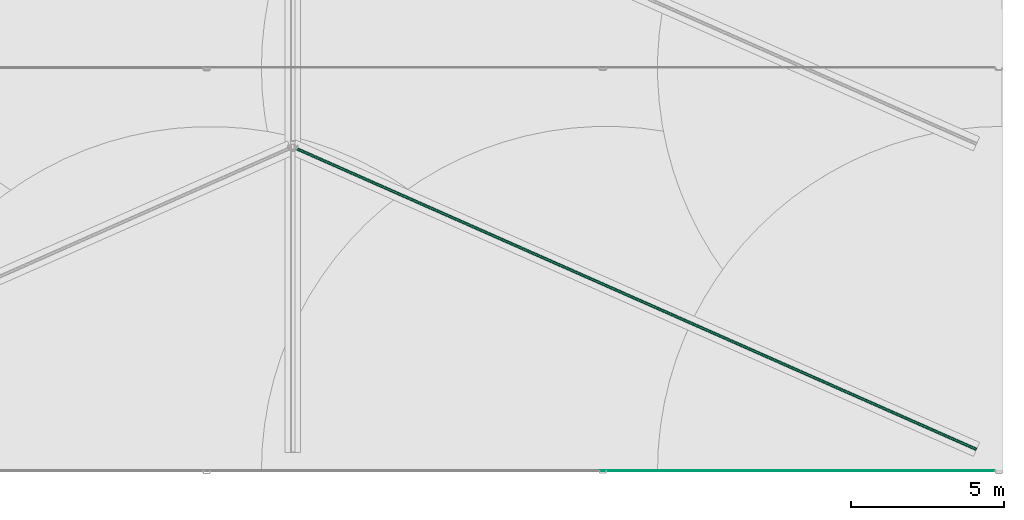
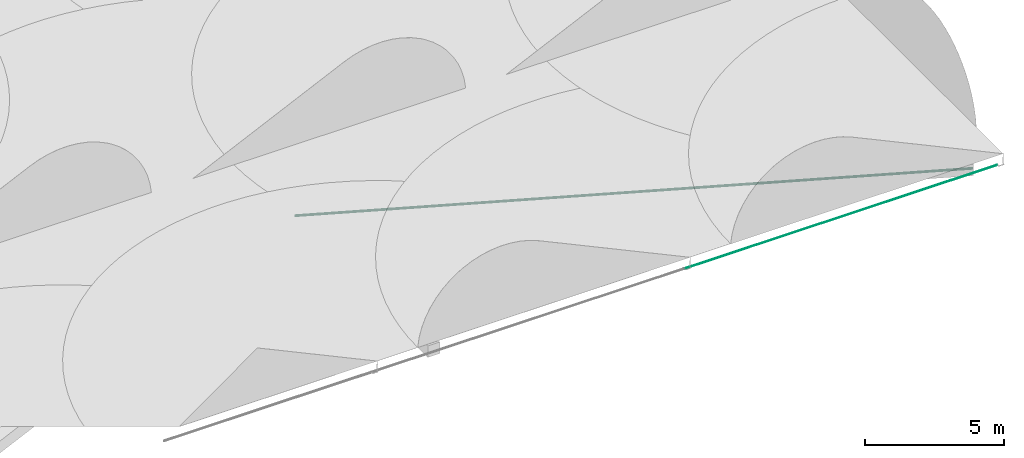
# One storey, part 31 of 166: 2 flow segments.
"""IFC2X3 building model written with IfcOpenShell, lengths in metres."""

from ifc_helpers import new_model, entity, si_unit, converted_unit, direction, frame, frame_2d, origin, origin_2d_with_axis, place, context, subcontext, project, spatial, circle, extrude, type_object, element, save


model = new_model("IFC2X3")

# Units and contexts
model_context = context("Model", 3, precision=1e-05, world=origin(), true_north=direction((6.123233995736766e-17, 1.0)))
body_context = subcontext(model_context, "Body", "Model", "MODEL_VIEW")
ifc_project = project(units=[si_unit("LENGTHUNIT", "METRE"), converted_unit("PLANEANGLEUNIT", "DEGREE", entity("IfcPlaneAngleMeasure", 0.017453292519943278), si_unit("PLANEANGLEUNIT", "RADIAN"), dimensions=[0, 0, 0, 0, 0, 0, 0]), si_unit("AREAUNIT", "SQUARE_METRE")], contexts=[model_context])

# Site, building, storey
site_placement = place(None, origin())
site = spatial("IfcSite", under=ifc_project, at=site_placement, Name="Default", CompositionType="ELEMENT")
building_placement = place(site_placement, origin())
building = spatial("IfcBuilding", under=site, at=building_placement, Name="CASA DE ACOLHIDA PARA IDOSOS", CompositionType="ELEMENT")
storey_placement = place(building_placement, frame((0.0, 0.0, -1.7499999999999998)))
storey = spatial("IfcBuildingStorey", under=building, at=storey_placement, Name="IMPLANTAÇÃO DRENAGEM", CompositionType="ELEMENT", Elevation=-1.7499999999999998)

# Flow segments
pipe_segment_type_1 = type_object("IfcPipeSegmentType", Name="Tipos de tubos:PLUV_Tubo PEAD Corrugado", PredefinedType="NOTDEFINED")
flow_segment_1_placement = place(storey_placement, origin())
element("IfcFlowSegment", 1, at=flow_segment_1_placement, inside=storey, type_object=pipe_segment_type_1, Name="Tipos de tubos:PLUV_Tubo PEAD Corrugado", ObjectType="Tipos de tubos:PLUV_Tubo PEAD Corrugado", context=body_context, shape_type="SweptSolid", body=[
    extrude(circle(Radius=0.05, at=origin_2d_with_axis()), frame((45.35555726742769, -16.046942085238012, -0.55), z_axis=(-0.9144899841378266, 0.4044849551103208, -0.009999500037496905), x_axis=(0.4045051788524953, 0.914535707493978, 0.0)), (0.0, 0.0, 1.0), 24.480228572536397),
])
pipe_segment_type_2 = type_object("IfcPipeSegmentType", Name="Tipos de tubos:AF_Tubo Marrom Soldável", PredefinedType="NOTDEFINED")
flow_segment_2_placement = place(storey_placement, origin())
element("IfcFlowSegment", 2, at=flow_segment_2_placement, inside=storey, type_object=pipe_segment_type_2, Name="Tipos de tubos:AF_Tubo Marrom Soldável", ObjectType="Tipos de tubos:AF_Tubo Marrom Soldável", context=body_context, shape_type="SweptSolid", body=[
    extrude(circle(Radius=0.0125, at=frame_2d((-2.1657342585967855e-15, 0.0), x_axis=(1.0, 0.0))), frame((33.024951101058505, -16.74505792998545, -0.19999999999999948), z_axis=(1.0, 0.0, 0.0), x_axis=(0.0, -1.0, 0.0)), (0.0, 0.0, 1.0), 12.9336),
])

save(model, "model.ifc")
